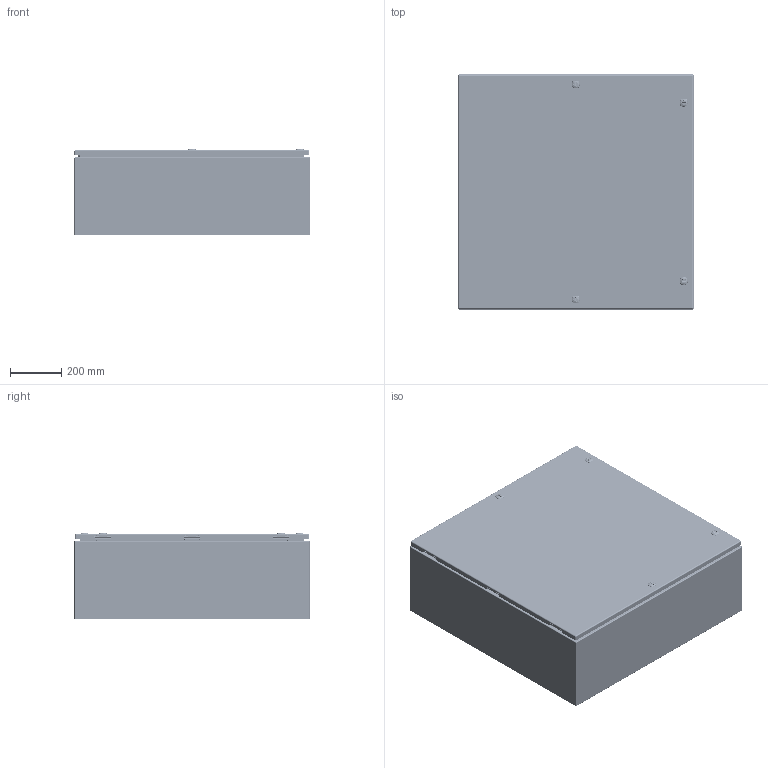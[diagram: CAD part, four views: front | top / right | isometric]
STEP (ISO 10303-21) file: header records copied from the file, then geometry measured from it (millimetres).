
FILE_DESCRIPTION(/* description */ ('5412ES 36" x 36" x 12" Assembly'),/* implementation_level */ '2;1');
FILE_NAME(/* name */ '5412ESB363612.stp',/* time_stamp */ '2024-01-17T17:39:23-05:00',/* author */ ('BoxCad'),/* organization */ (''),/* preprocessor_version */ 'ST-DEVELOPER v20',/* originating_system */ 'Autodesk Inventor 2024',/* authorisation */ '');
FILE_SCHEMA (('AUTOMOTIVE_DESIGN { 1 0 10303 214 3 1 1 }'));
Products named in the file (48): 5412ESB363612; 5412ESB363612B; 5412ESB363612B-P; STK-Q-16005; STUD_M6 x 16mm; 5412ESB363612C; 5412ESB363612C-P; 5412ESB363612G; STK-K-09800; STK-K-09800-2; STK-K-09800-3; STK-Q-33014; STK-Q-90398; STK-Q-40095; STK-Q-63410; STK-Q-46020-36; STK-Q-07220-1; STK-Q-07220-2; STK-Q-07220-3; STK-Q-07220-4; STK-Q-07220-A; STK-Q-07220-B; STK-Q-16055; STK-Q-46515-1; STK-Q-46515-B; STK-Q-46515-A; STK-P-03820R; STK-S-00100; STK-K-12500; STK-Q-78111; STK-Q-78141; STK-Q-78120; STK-Q-78145; STK-Q-03200; STK-Q-78160; STK-Q-90390; STK-Q-78111-R; STK-Q-04050-08-1; STK-Q-04050-08-2; STK-Q-04050-08-3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
Assembly tree (101 placements, depth 4):
  5412ESB363612
    5412ESB363612B
      5412ESB363612B-P
      STK-Q-16005  x8
      STK-P-03820R
      STUD_M6 x 16mm
    5412ESB363612C
      5412ESB363612C-P
      5412ESB363612G
      STK-K-09800
        STK-Q-33014
        STK-Q-90398
        STK-Q-40095  x2
        STK-Q-63410  x2
      STK-K-09800-2
        STK-Q-33014
        STK-Q-90398
        STK-Q-40095  x2
        STK-Q-63410  x2
      STK-K-09800-3
        STK-Q-33014
        STK-Q-90398
        STK-Q-40095  x2
        STK-Q-63410  x2
      STK-Q-16055  x5
      STK-Q-46020-36  x2
      STK-Q-07220-1
        STK-Q-07220-A
        STK-Q-07220-B
      STK-Q-07220-2
        STK-Q-07220-A
        STK-Q-07220-B
      STK-Q-07220-3
        STK-Q-07220-A
        STK-Q-07220-B
      STK-Q-07220-4
        STK-Q-07220-A
        STK-Q-07220-B
      STK-Q-46515-1
        STK-Q-46515-B
        STK-Q-46515-A
      STK-P-03820R
      STK-K-12500  x4
        STK-Q-78111
        STK-Q-78141
        STK-Q-78120
        STK-Q-78145
        STK-Q-03200
        STK-Q-78160
        STK-Q-90390
        STK-Q-78111-R
      STK-S-00100
    STK-Q-04050-08-1
      STK-Q-04050-08-P
      STK-Q-04051-N
    STK-Q-04050-08-2
      STK-Q-04050-08-P
      STK-Q-04051-N
    STK-Q-04050-08-3
      STK-Q-04050-08-P
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Bounding box: 914.85 x 914.4 x 337.69 mm (x, y, z)
Volume: 7648863 mm3; surface area: 7952739 mm2
Topology: 103 solids, 103 shells, 17347 faces, 46018 edges, 28932 vertices
Faces by surface type: bspline 5868, plane 5321, cylinder 4415, torus 1169, sphere 348, cone 226
Full cylindrical faces by diameter (mm): 0 x1, 0.75 x14, 0.762 x14, 1 x12, 1.1 x12, 3.2 x6, 4.191 x64, 4.5 x5, 4.521 x12, 4.75 x3, 4.85 x24, 4.95 x6, 5 x4, 5.1 x47, 5.105 x11, 5.156 x2, 5.6 x3, 5.9 x44, 6.015 x64, 6.65 x8, 6.8 x4, 6.85 x16, 7.3 x3, 7.366 x4, 7.468 x2, 7.9 x12, 8 x16, 8.382 x3, 9.5 x4, 9.6 x4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
Entity records: 173471 total; most frequent: CARTESIAN_POINT 67334, ORIENTED_EDGE 23838, DIRECTION 18274, EDGE_CURVE 11919, VERTEX_POINT 7504, AXIS2_PLACEMENT_3D 6586, LINE 5102, VECTOR 5102
